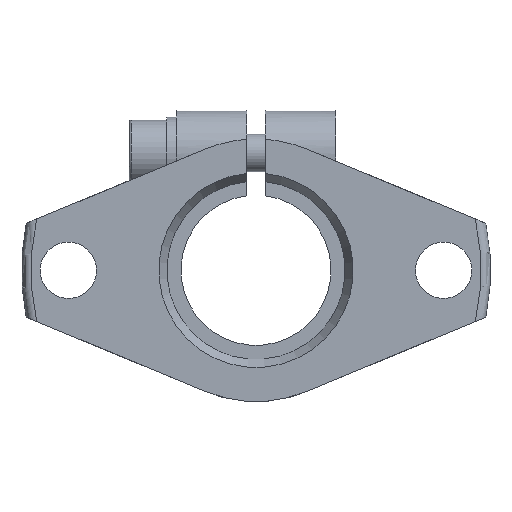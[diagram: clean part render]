
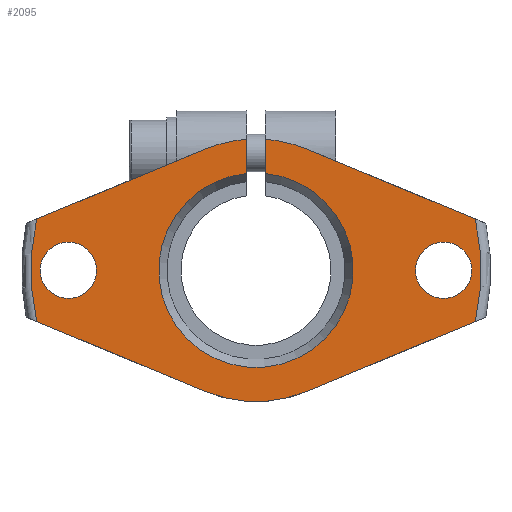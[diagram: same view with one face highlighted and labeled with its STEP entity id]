
A CAD part, left-side view. The second image highlights one B-rep face of the part: STEP entity #2095.
In plain terms, the highlighted planar face has unit normal (-1, 0, 0).
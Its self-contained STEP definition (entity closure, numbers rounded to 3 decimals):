
#481=CARTESIAN_POINT('',(0.0,-23.369,-5.467));
#482=VERTEX_POINT('',#481);
#519=CARTESIAN_POINT('',(0.0,-23.369,5.467));
#520=VERTEX_POINT('',#519);
#546=CARTESIAN_POINT('',(0.0,0.0,0.0));
#547=DIRECTION('',(1.0,0.0,0.0));
#548=DIRECTION('',(0.0,-1.0,0.0));
#549=AXIS2_PLACEMENT_3D('',#546,#547,#548);
#550=CIRCLE('',#549,24.);
#551=EDGE_CURVE('',#520,#482,#550,.T.);
#668=CARTESIAN_POINT('',(0.0,-5.362,12.933));
#669=VERTEX_POINT('',#668);
#676=CARTESIAN_POINT('',(0.0,-5.362,12.933));
#677=DIRECTION('',(0.0,-0.924,-0.383));
#678=VECTOR('',#677,19.494);
#679=LINE('',#676,#678);
#680=EDGE_CURVE('',#669,#520,#679,.T.);
#715=CARTESIAN_POINT('',(0.0,23.369,5.467));
#716=VERTEX_POINT('',#715);
#753=CARTESIAN_POINT('',(0.0,23.369,-5.467));
#754=VERTEX_POINT('',#753);
#780=CARTESIAN_POINT('',(0.0,0.0,0.0));
#781=DIRECTION('',(1.0,0.0,0.0));
#782=DIRECTION('',(0.0,1.0,0.0));
#783=AXIS2_PLACEMENT_3D('',#780,#781,#782);
#784=CIRCLE('',#783,24.);
#785=EDGE_CURVE('',#754,#716,#784,.T.);
#828=CARTESIAN_POINT('',(0.0,5.362,12.933));
#829=VERTEX_POINT('',#828);
#830=CARTESIAN_POINT('',(0.0,23.369,5.467));
#831=DIRECTION('',(0.0,-0.924,0.383));
#832=VECTOR('',#831,19.494);
#833=LINE('',#830,#832);
#834=EDGE_CURVE('',#716,#829,#833,.T.);
#1122=CARTESIAN_POINT('',(0.0,-5.362,-12.933));
#1123=VERTEX_POINT('',#1122);
#1130=CARTESIAN_POINT('',(0.0,5.362,-12.933));
#1131=VERTEX_POINT('',#1130);
#1132=CARTESIAN_POINT('',(0.0,0.0,0.0));
#1133=DIRECTION('',(1.0,0.0,0.0));
#1134=DIRECTION('',(0.0,1.0,0.0));
#1135=AXIS2_PLACEMENT_3D('',#1132,#1133,#1134);
#1136=CIRCLE('',#1135,14.);
#1137=EDGE_CURVE('',#1123,#1131,#1136,.T.);
#1489=CARTESIAN_POINT('',(0.0,1.,13.964));
#1490=VERTEX_POINT('',#1489);
#1497=CARTESIAN_POINT('',(0.0,1.,10.318));
#1498=VERTEX_POINT('',#1497);
#1499=CARTESIAN_POINT('',(0.0,1.,10.318));
#1500=DIRECTION('',(0.0,0.0,1.0));
#1501=VECTOR('',#1500,3.647);
#1502=LINE('',#1499,#1501);
#1503=EDGE_CURVE('',#1498,#1490,#1502,.T.);
#1618=CARTESIAN_POINT('',(0.0,23.,0.));
#1619=VERTEX_POINT('',#1618);
#1620=CARTESIAN_POINT('',(0.0,20.,0.));
#1621=DIRECTION('',(1.0,0.0,0.0));
#1622=DIRECTION('',(0.0,1.0,0.0));
#1623=AXIS2_PLACEMENT_3D('',#1620,#1621,#1622);
#1624=CIRCLE('',#1623,3.);
#1625=EDGE_CURVE('',#1619,#1619,#1624,.T.);
#1646=CARTESIAN_POINT('',(0.0,-17.0,0.));
#1647=VERTEX_POINT('',#1646);
#1648=CARTESIAN_POINT('',(0.0,-20.0,0.));
#1649=DIRECTION('',(1.0,0.0,0.0));
#1650=DIRECTION('',(0.0,1.0,0.0));
#1651=AXIS2_PLACEMENT_3D('',#1648,#1649,#1650);
#1652=CIRCLE('',#1651,3.);
#1653=EDGE_CURVE('',#1647,#1647,#1652,.T.);
#1814=CARTESIAN_POINT('',(0.0,-1.,10.318));
#1815=VERTEX_POINT('',#1814);
#1816=CARTESIAN_POINT('',(0.0,0.0,0.0));
#1817=DIRECTION('',(-1.0,0.0,0.0));
#1818=DIRECTION('',(0.0,0.0,-1.0));
#1819=AXIS2_PLACEMENT_3D('',#1816,#1817,#1818);
#1820=CIRCLE('',#1819,10.366);
#1821=EDGE_CURVE('',#1498,#1815,#1820,.T.);
#1900=CARTESIAN_POINT('',(0.0,-1.,13.964));
#1901=VERTEX_POINT('',#1900);
#1902=CARTESIAN_POINT('',(0.0,-1.,13.964));
#1903=DIRECTION('',(0.0,0.0,-1.0));
#1904=VECTOR('',#1903,3.647);
#1905=LINE('',#1902,#1904);
#1906=EDGE_CURVE('',#1901,#1815,#1905,.T.);
#2032=CARTESIAN_POINT('',(0.0,0.0,0.0));
#2033=DIRECTION('',(1.0,0.0,0.0));
#2034=DIRECTION('',(0.0,1.0,0.0));
#2035=AXIS2_PLACEMENT_3D('',#2032,#2033,#2034);
#2036=CIRCLE('',#2035,14.);
#2037=EDGE_CURVE('',#829,#1490,#2036,.T.);
#2048=CARTESIAN_POINT('',(0.0,0.0,0.0));
#2049=DIRECTION('',(1.0,0.0,0.0));
#2050=DIRECTION('',(0.0,1.0,0.0));
#2051=AXIS2_PLACEMENT_3D('',#2048,#2049,#2050);
#2052=CIRCLE('',#2051,14.);
#2053=EDGE_CURVE('',#1901,#669,#2052,.T.);
#2060=CARTESIAN_POINT('',(0.0,-14.346,0.0));
#2061=DIRECTION('',(1.0,0.0,0.0));
#2062=DIRECTION('',(0.0,0.0,-1.0));
#2063=AXIS2_PLACEMENT_3D('',#2060,#2061,#2062);
#2064=PLANE('',#2063);
#2065=ORIENTED_EDGE('',*,*,#551,.F.);
#2066=ORIENTED_EDGE('',*,*,#680,.F.);
#2067=ORIENTED_EDGE('',*,*,#2053,.F.);
#2068=ORIENTED_EDGE('',*,*,#1906,.T.);
#2069=ORIENTED_EDGE('',*,*,#1821,.F.);
#2070=ORIENTED_EDGE('',*,*,#1503,.T.);
#2071=ORIENTED_EDGE('',*,*,#2037,.F.);
#2072=ORIENTED_EDGE('',*,*,#834,.F.);
#2073=ORIENTED_EDGE('',*,*,#785,.F.);
#2074=CARTESIAN_POINT('',(0.0,5.362,-12.933));
#2075=DIRECTION('',(0.0,0.924,0.383));
#2076=VECTOR('',#2075,19.494);
#2077=LINE('',#2074,#2076);
#2078=EDGE_CURVE('',#1131,#754,#2077,.T.);
#2079=ORIENTED_EDGE('',*,*,#2078,.F.);
#2080=ORIENTED_EDGE('',*,*,#1137,.F.);
#2081=CARTESIAN_POINT('',(0.0,-23.369,-5.467));
#2082=DIRECTION('',(0.0,0.924,-0.383));
#2083=VECTOR('',#2082,19.494);
#2084=LINE('',#2081,#2083);
#2085=EDGE_CURVE('',#482,#1123,#2084,.T.);
#2086=ORIENTED_EDGE('',*,*,#2085,.F.);
#2087=EDGE_LOOP('',(#2065,#2066,#2067,#2068,#2069,#2070,#2071,#2072,#2073,#2079,#2080,#2086));
#2088=FACE_OUTER_BOUND('',#2087,.T.);
#2089=ORIENTED_EDGE('',*,*,#1625,.T.);
#2090=EDGE_LOOP('',(#2089));
#2091=FACE_BOUND('',#2090,.T.);
#2092=ORIENTED_EDGE('',*,*,#1653,.T.);
#2093=EDGE_LOOP('',(#2092));
#2094=FACE_BOUND('',#2093,.T.);
#2095=ADVANCED_FACE('',(#2088,#2091,#2094),#2064,.F.);
